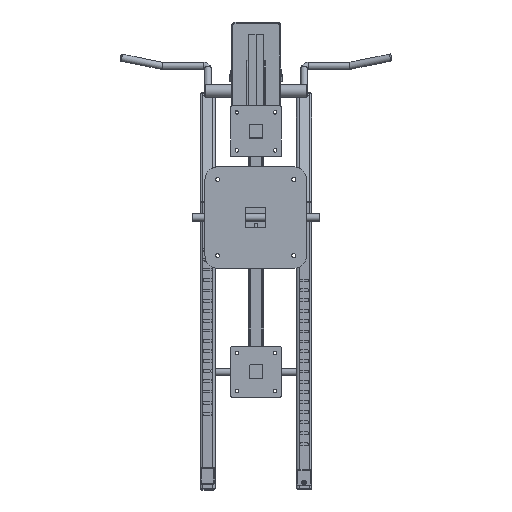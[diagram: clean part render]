
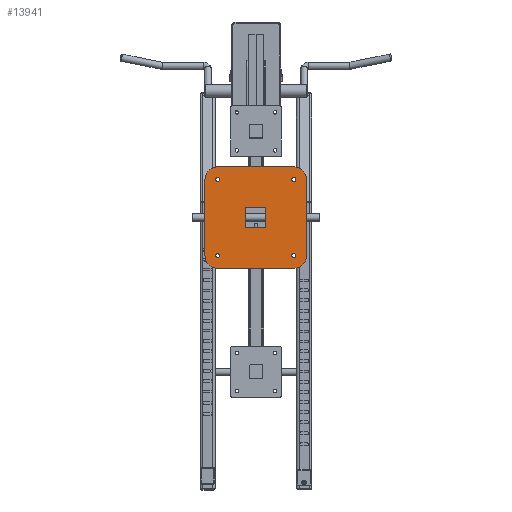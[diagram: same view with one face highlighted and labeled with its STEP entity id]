
A CAD part, front view. The second image highlights one B-rep face of the part: STEP entity #13941.
In plain terms, the highlighted planar face has unit normal (0, -1, 0).
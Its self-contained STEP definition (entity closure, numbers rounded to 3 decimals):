
#195=FACE_BOUND('',#5162,.T.);
#196=FACE_BOUND('',#5163,.T.);
#197=FACE_BOUND('',#5164,.T.);
#198=FACE_BOUND('',#5165,.T.);
#199=FACE_BOUND('',#5166,.T.);
#724=PLANE('',#15422);
#1845=LINE('',#23445,#3066);
#1847=LINE('',#23450,#3068);
#1851=LINE('',#23459,#3072);
#1855=LINE('',#23471,#3076);
#1856=LINE('',#23479,#3077);
#1857=LINE('',#23481,#3078);
#1858=LINE('',#23483,#3079);
#1859=LINE('',#23484,#3080);
#3066=VECTOR('',#19334,300.);
#3068=VECTOR('',#19338,300.);
#3072=VECTOR('',#19344,300.);
#3076=VECTOR('',#19356,300.);
#3077=VECTOR('',#19363,80.);
#3078=VECTOR('',#19364,80.);
#3079=VECTOR('',#19365,80.);
#3080=VECTOR('',#19366,80.);
#4243=FACE_OUTER_BOUND('',#5161,.T.);
#5161=EDGE_LOOP('',(#12706,#12707,#12708,#12709,#12710,#12711,#12712,#12713));
#5162=EDGE_LOOP('',(#12714));
#5163=EDGE_LOOP('',(#12715));
#5164=EDGE_LOOP('',(#12716,#12717,#12718,#12719));
#5165=EDGE_LOOP('',(#12720));
#5166=EDGE_LOOP('',(#12721));
#5928=CIRCLE('',#15423,50.);
#5929=CIRCLE('',#15424,50.);
#5930=CIRCLE('',#15425,50.);
#5931=CIRCLE('',#15426,50.);
#5932=CIRCLE('',#15427,8.);
#5933=CIRCLE('',#15428,8.);
#5934=CIRCLE('',#15429,8.);
#5935=CIRCLE('',#15430,8.);
#7145=VERTEX_POINT('',#23442);
#7146=VERTEX_POINT('',#23444);
#7147=VERTEX_POINT('',#23448);
#7148=VERTEX_POINT('',#23449);
#7151=VERTEX_POINT('',#23457);
#7152=VERTEX_POINT('',#23458);
#7155=VERTEX_POINT('',#23468);
#7156=VERTEX_POINT('',#23470);
#7157=VERTEX_POINT('',#23473);
#7158=VERTEX_POINT('',#23475);
#7159=VERTEX_POINT('',#23477);
#7160=VERTEX_POINT('',#23478);
#7161=VERTEX_POINT('',#23480);
#7162=VERTEX_POINT('',#23482);
#7163=VERTEX_POINT('',#23485);
#7164=VERTEX_POINT('',#23487);
#9023=EDGE_CURVE('',#7146,#7145,#1845,.T.);
#9025=EDGE_CURVE('',#7147,#7148,#1847,.T.);
#9029=EDGE_CURVE('',#7151,#7152,#1851,.T.);
#9033=EDGE_CURVE('',#7145,#7152,#5928,.T.);
#9034=EDGE_CURVE('',#7151,#7148,#5929,.T.);
#9035=EDGE_CURVE('',#7147,#7155,#5930,.T.);
#9036=EDGE_CURVE('',#7155,#7156,#1855,.T.);
#9037=EDGE_CURVE('',#7156,#7146,#5931,.T.);
#9038=EDGE_CURVE('',#7157,#7157,#5932,.T.);
#9039=EDGE_CURVE('',#7158,#7158,#5933,.T.);
#9040=EDGE_CURVE('',#7159,#7160,#1856,.T.);
#9041=EDGE_CURVE('',#7161,#7159,#1857,.T.);
#9042=EDGE_CURVE('',#7162,#7161,#1858,.T.);
#9043=EDGE_CURVE('',#7160,#7162,#1859,.T.);
#9044=EDGE_CURVE('',#7163,#7163,#5934,.T.);
#9045=EDGE_CURVE('',#7164,#7164,#5935,.T.);
#12706=ORIENTED_EDGE('',*,*,#9023,.T.);
#12707=ORIENTED_EDGE('',*,*,#9033,.T.);
#12708=ORIENTED_EDGE('',*,*,#9029,.F.);
#12709=ORIENTED_EDGE('',*,*,#9034,.T.);
#12710=ORIENTED_EDGE('',*,*,#9025,.F.);
#12711=ORIENTED_EDGE('',*,*,#9035,.T.);
#12712=ORIENTED_EDGE('',*,*,#9036,.T.);
#12713=ORIENTED_EDGE('',*,*,#9037,.T.);
#12714=ORIENTED_EDGE('',*,*,#9038,.F.);
#12715=ORIENTED_EDGE('',*,*,#9039,.F.);
#12716=ORIENTED_EDGE('',*,*,#9040,.F.);
#12717=ORIENTED_EDGE('',*,*,#9041,.F.);
#12718=ORIENTED_EDGE('',*,*,#9042,.F.);
#12719=ORIENTED_EDGE('',*,*,#9043,.F.);
#12720=ORIENTED_EDGE('',*,*,#9044,.F.);
#12721=ORIENTED_EDGE('',*,*,#9045,.F.);
#13941=ADVANCED_FACE('',(#4243,#195,#196,#197,#198,#199),#724,.T.);
#15422=AXIS2_PLACEMENT_3D('',#23465,#19348,#19349);
#15423=AXIS2_PLACEMENT_3D('',#23466,#19350,#19351);
#15424=AXIS2_PLACEMENT_3D('',#23467,#19352,#19353);
#15425=AXIS2_PLACEMENT_3D('',#23469,#19354,#19355);
#15426=AXIS2_PLACEMENT_3D('',#23472,#19357,#19358);
#15427=AXIS2_PLACEMENT_3D('',#23474,#19359,#19360);
#15428=AXIS2_PLACEMENT_3D('',#23476,#19361,#19362);
#15429=AXIS2_PLACEMENT_3D('',#23486,#19367,#19368);
#15430=AXIS2_PLACEMENT_3D('',#23488,#19369,#19370);
#19334=DIRECTION('',(-1.,0.,0.));
#19338=DIRECTION('',(-1.,0.,0.));
#19344=DIRECTION('',(0.,0.,1.));
#19348=DIRECTION('center_axis',(0.,-1.,0.));
#19349=DIRECTION('ref_axis',(-1.,0.,0.));
#19350=DIRECTION('center_axis',(0.,-1.,0.));
#19351=DIRECTION('ref_axis',(0.,0.,
1.));
#19352=DIRECTION('center_axis',(0.,-1.,0.));
#19353=DIRECTION('ref_axis',(-1.,0.,0.));
#19354=DIRECTION('center_axis',(0.,-1.,0.));
#19355=DIRECTION('ref_axis',(0.,0.,
-1.));
#19356=DIRECTION('',(0.,0.,1.));
#19357=DIRECTION('center_axis',(0.,-1.,0.));
#19358=DIRECTION('ref_axis',(1.,0.,0.));
#19359=DIRECTION('center_axis',(0.,-1.,0.));
#19360=DIRECTION('ref_axis',(0.,0.,
1.));
#19361=DIRECTION('center_axis',(0.,-1.,0.));
#19362=DIRECTION('ref_axis',(0.,0.,
1.));
#19363=DIRECTION('',(-1.,0.,0.));
#19364=DIRECTION('',(0.,0.,1.));
#19365=DIRECTION('',(1.,0.,0.));
#19366=DIRECTION('',(0.,0.,-1.));
#19367=DIRECTION('center_axis',(0.,-1.,0.));
#19368=DIRECTION('ref_axis',(0.,0.,
1.));
#19369=DIRECTION('center_axis',(0.,-1.,0.));
#19370=DIRECTION('ref_axis',(0.,0.,
1.));
#23442=CARTESIAN_POINT('',(50.,0.,400.));
#23444=CARTESIAN_POINT('',(350.,0.,400.));
#23445=CARTESIAN_POINT('',(350.,0.,400.));
#23448=CARTESIAN_POINT('',(350.,0.,0.));
#23449=CARTESIAN_POINT('',(50.,0.,0.));
#23450=CARTESIAN_POINT('',(350.,0.,0.));
#23457=CARTESIAN_POINT('',(0.,0.,50.));
#23458=CARTESIAN_POINT('',(0.,0.,350.));
#23459=CARTESIAN_POINT('',(0.,0.,50.));
#23465=CARTESIAN_POINT('Origin',(404.,0.,
404.));
#23466=CARTESIAN_POINT('Origin',(50.,0.,
350.));
#23467=CARTESIAN_POINT('Origin',(50.,0.,50.));
#23468=CARTESIAN_POINT('',(400.,0.,50.));
#23469=CARTESIAN_POINT('Origin',(350.,0.,
50.));
#23470=CARTESIAN_POINT('',(400.,0.,350.));
#23471=CARTESIAN_POINT('',(400.,0.,50.));
#23472=CARTESIAN_POINT('Origin',(350.,0.,
350.));
#23473=CARTESIAN_POINT('',(350.,0.,58.));
#23474=CARTESIAN_POINT('Origin',(350.,0.,
50.));
#23475=CARTESIAN_POINT('',(50.,0.,358.));
#23476=CARTESIAN_POINT('Origin',(50.,0.,
350.));
#23477=CARTESIAN_POINT('',(240.,0.,240.));
#23478=CARTESIAN_POINT('',(160.,0.,240.));
#23479=CARTESIAN_POINT('',(240.,0.,240.));
#23480=CARTESIAN_POINT('',(240.,0.,160.));
#23481=CARTESIAN_POINT('',(240.,0.,160.));
#23482=CARTESIAN_POINT('',(160.,0.,160.));
#23483=CARTESIAN_POINT('',(160.,0.,160.));
#23484=CARTESIAN_POINT('',(160.,0.,240.));
#23485=CARTESIAN_POINT('',(350.,0.,358.));
#23486=CARTESIAN_POINT('Origin',(350.,0.,
350.));
#23487=CARTESIAN_POINT('',(50.,0.,58.));
#23488=CARTESIAN_POINT('Origin',(50.,0.,50.));
